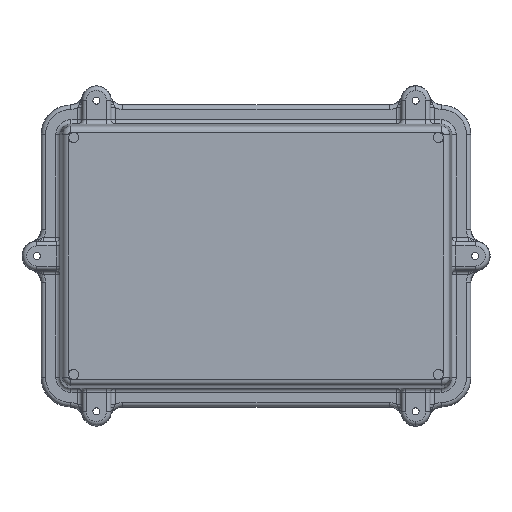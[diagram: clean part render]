
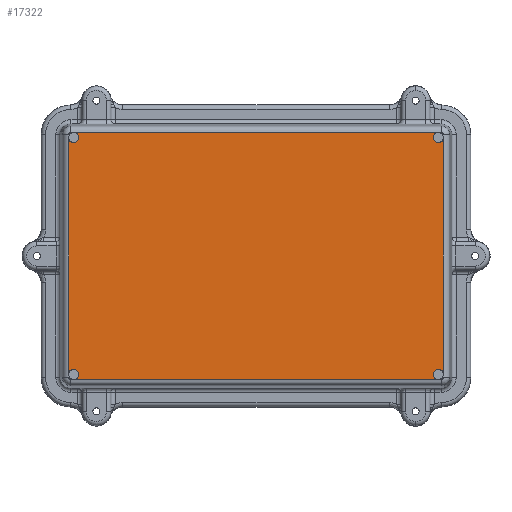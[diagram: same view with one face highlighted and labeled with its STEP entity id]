
A CAD part, front view. The second image highlights one B-rep face of the part: STEP entity #17322.
In plain terms, the highlighted planar face has unit normal (0, -1, 0).
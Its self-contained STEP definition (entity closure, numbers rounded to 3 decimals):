
#229 = DIRECTION ( 'NONE',  ( 0., 0., 1. ) ) ;
#290 = DIRECTION ( 'NONE',  ( 0., 0., 1. ) ) ;
#430 = ORIENTED_EDGE ( 'NONE', *, *, #16453, .T. ) ;
#850 = CARTESIAN_POINT ( 'NONE',  ( 85.017, -40.15, -58.001 ) ) ;
#886 = CARTESIAN_POINT ( 'NONE',  ( -87., -40.15, 57. ) ) ;
#1676 = CARTESIAN_POINT ( 'NONE',  ( -85.7, -40.15, 53.3 ) ) ;
#1740 = CARTESIAN_POINT ( 'NONE',  ( 85.017, -40.15, 58.001 ) ) ;
#1853 = FACE_OUTER_BOUND ( 'NONE', #1958, .T. ) ;
#1897 = AXIS2_PLACEMENT_3D ( 'NONE', #14745, #10352, #3872 ) ;
#1958 = EDGE_LOOP ( 'NONE', ( #27041, #11726, #8102, #25198, #8830, #15348, #15095, #3859, #2852, #21496, #430, #13577 ) ) ;
#2245 = AXIS2_PLACEMENT_3D ( 'NONE', #6286, #21515, #8482 ) ;
#2595 = EDGE_CURVE ( 'NONE', #19711, #3288, #27076, .T. ) ;
#2852 = ORIENTED_EDGE ( 'NONE', *, *, #9067, .F. ) ;
#3215 = LINE ( 'NONE', #16376, #28013 ) ;
#3288 = VERTEX_POINT ( 'NONE', #8596 ) ;
#3567 = VECTOR ( 'NONE', #13214, 1000. ) ;
#3859 = ORIENTED_EDGE ( 'NONE', *, *, #6562, .T. ) ;
#3872 = DIRECTION ( 'NONE',  ( 0., 0., 1. ) ) ;
#4187 = EDGE_CURVE ( 'NONE', #6358, #24547, #3215, .T. ) ;
#4481 = EDGE_CURVE ( 'NONE', #19711, #24818, #22580, .T. ) ;
#4719 = CIRCLE ( 'NONE', #2245, 2.4 ) ;
#4793 = CARTESIAN_POINT ( 'NONE',  ( 88.001, -40.15, 57. ) ) ;
#4819 = CIRCLE ( 'NONE', #19070, 2.4 ) ;
#4834 = CARTESIAN_POINT ( 'NONE',  ( -87., -40.15, 58.001 ) ) ;
#4860 = VERTEX_POINT ( 'NONE', #24066 ) ;
#4923 = DIRECTION ( 'NONE',  ( 0., 0., -1. ) ) ;
#5791 = CARTESIAN_POINT ( 'NONE',  ( -88.001, -40.15, -55.017 ) ) ;
#6286 = CARTESIAN_POINT ( 'NONE',  ( -85.7, -40.15, 55.7 ) ) ;
#6299 = VERTEX_POINT ( 'NONE', #22926 ) ;
#6358 = VERTEX_POINT ( 'NONE', #18312 ) ;
#6562 = EDGE_CURVE ( 'NONE', #20203, #11946, #8218, .T. ) ;
#6903 = DIRECTION ( 'NONE',  ( 0., -1., 0. ) ) ;
#8039 = AXIS2_PLACEMENT_3D ( 'NONE', #13320, #19773, #229 ) ;
#8102 = ORIENTED_EDGE ( 'NONE', *, *, #10351, .F. ) ;
#8218 = LINE ( 'NONE', #4834, #25217 ) ;
#8259 = CARTESIAN_POINT ( 'NONE',  ( 88.001, -40.15, -55.017 ) ) ;
#8380 = AXIS2_PLACEMENT_3D ( 'NONE', #27410, #25152, #14344 ) ;
#8482 = DIRECTION ( 'NONE',  ( 0., 0., -1. ) ) ;
#8596 = CARTESIAN_POINT ( 'NONE',  ( 85.7, -40.15, -53.3 ) ) ;
#8757 = DIRECTION ( 'NONE',  ( -1., 0., 0. ) ) ;
#8830 = ORIENTED_EDGE ( 'NONE', *, *, #4481, .T. ) ;
#9067 = EDGE_CURVE ( 'NONE', #27628, #11946, #4719, .T. ) ;
#9847 = AXIS2_PLACEMENT_3D ( 'NONE', #886, #26855, #16439 ) ;
#10351 = EDGE_CURVE ( 'NONE', #3288, #24547, #18009, .T. ) ;
#10352 = DIRECTION ( 'NONE',  ( 0., -1., 0. ) ) ;
#10553 = EDGE_CURVE ( 'NONE', #4860, #23946, #14917, .T. ) ;
#10793 = CARTESIAN_POINT ( 'NONE',  ( -85.7, -40.15, -55.7 ) ) ;
#11032 = VECTOR ( 'NONE', #11572, 1000. ) ;
#11572 = DIRECTION ( 'NONE',  ( 0., 0., 1. ) ) ;
#11726 = ORIENTED_EDGE ( 'NONE', *, *, #4187, .T. ) ;
#11946 = VERTEX_POINT ( 'NONE', #21809 ) ;
#13214 = DIRECTION ( 'NONE',  ( 0., 0., -1. ) ) ;
#13320 = CARTESIAN_POINT ( 'NONE',  ( -85.7, -40.15, -55.7 ) ) ;
#13425 = DIRECTION ( 'NONE',  ( 0., 0., -1. ) ) ;
#13492 = EDGE_CURVE ( 'NONE', #20203, #27031, #20750, .T. ) ;
#13577 = ORIENTED_EDGE ( 'NONE', *, *, #10553, .F. ) ;
#14261 = PLANE ( 'NONE',  #9847 ) ;
#14344 = DIRECTION ( 'NONE',  ( 0., 0., -1. ) ) ;
#14467 = DIRECTION ( 'NONE',  ( 1., 0., 0. ) ) ;
#14745 = CARTESIAN_POINT ( 'NONE',  ( 85.7, -40.15, 55.7 ) ) ;
#14917 = CIRCLE ( 'NONE', #26031, 2.4 ) ;
#15095 = ORIENTED_EDGE ( 'NONE', *, *, #13492, .F. ) ;
#15348 = ORIENTED_EDGE ( 'NONE', *, *, #18191, .F. ) ;
#15802 = DIRECTION ( 'NONE',  ( 0., -1., 0. ) ) ;
#16093 = CARTESIAN_POINT ( 'NONE',  ( 85.7, -40.15, 55.7 ) ) ;
#16376 = CARTESIAN_POINT ( 'NONE',  ( 87., -40.15, -58.001 ) ) ;
#16439 = DIRECTION ( 'NONE',  ( 0., 0., -1. ) ) ;
#16453 = EDGE_CURVE ( 'NONE', #6299, #23946, #21604, .T. ) ;
#16504 = CIRCLE ( 'NONE', #26937, 2.4 ) ;
#17322 = ADVANCED_FACE ( 'NONE', ( #1853 ), #14261, .T. ) ;
#17676 = CARTESIAN_POINT ( 'NONE',  ( -88.001, -40.15, -57. ) ) ;
#17809 = CARTESIAN_POINT ( 'NONE',  ( 88.001, -40.15, 55.017 ) ) ;
#18009 = CIRCLE ( 'NONE', #8380, 2.4 ) ;
#18191 = EDGE_CURVE ( 'NONE', #27031, #24818, #16504, .T. ) ;
#18274 = DIRECTION ( 'NONE',  ( 0., 0., 1. ) ) ;
#18312 = CARTESIAN_POINT ( 'NONE',  ( -85.017, -40.15, -58.001 ) ) ;
#19070 = AXIS2_PLACEMENT_3D ( 'NONE', #26670, #6903, #13425 ) ;
#19711 = VERTEX_POINT ( 'NONE', #8259 ) ;
#19773 = DIRECTION ( 'NONE',  ( 0., -1., 0. ) ) ;
#19978 = AXIS2_PLACEMENT_3D ( 'NONE', #26683, #15802, #4923 ) ;
#20203 = VERTEX_POINT ( 'NONE', #1740 ) ;
#20630 = CIRCLE ( 'NONE', #8039, 2.4 ) ;
#20750 = CIRCLE ( 'NONE', #1897, 2.4 ) ;
#21496 = ORIENTED_EDGE ( 'NONE', *, *, #21992, .F. ) ;
#21515 = DIRECTION ( 'NONE',  ( 0., -1., 0. ) ) ;
#21604 = LINE ( 'NONE', #17676, #3567 ) ;
#21809 = CARTESIAN_POINT ( 'NONE',  ( -85.017, -40.15, 58.001 ) ) ;
#21992 = EDGE_CURVE ( 'NONE', #6299, #27628, #4819, .T. ) ;
#22580 = LINE ( 'NONE', #4793, #11032 ) ;
#22792 = CARTESIAN_POINT ( 'NONE',  ( 85.7, -40.15, 53.3 ) ) ;
#22926 = CARTESIAN_POINT ( 'NONE',  ( -88.001, -40.15, 55.017 ) ) ;
#23946 = VERTEX_POINT ( 'NONE', #5791 ) ;
#24066 = CARTESIAN_POINT ( 'NONE',  ( -85.7, -40.15, -53.3 ) ) ;
#24524 = DIRECTION ( 'NONE',  ( 0., -1., 0. ) ) ;
#24547 = VERTEX_POINT ( 'NONE', #850 ) ;
#24818 = VERTEX_POINT ( 'NONE', #17809 ) ;
#25152 = DIRECTION ( 'NONE',  ( 0., -1., 0. ) ) ;
#25198 = ORIENTED_EDGE ( 'NONE', *, *, #2595, .F. ) ;
#25217 = VECTOR ( 'NONE', #8757, 1000. ) ;
#25980 = DIRECTION ( 'NONE',  ( 0., -1., 0. ) ) ;
#26031 = AXIS2_PLACEMENT_3D ( 'NONE', #10793, #25980, #290 ) ;
#26670 = CARTESIAN_POINT ( 'NONE',  ( -85.7, -40.15, 55.7 ) ) ;
#26683 = CARTESIAN_POINT ( 'NONE',  ( 85.7, -40.15, -55.7 ) ) ;
#26855 = DIRECTION ( 'NONE',  ( 0., -1., 0. ) ) ;
#26937 = AXIS2_PLACEMENT_3D ( 'NONE', #16093, #24524, #18274 ) ;
#27031 = VERTEX_POINT ( 'NONE', #22792 ) ;
#27041 = ORIENTED_EDGE ( 'NONE', *, *, #27762, .F. ) ;
#27076 = CIRCLE ( 'NONE', #19978, 2.4 ) ;
#27410 = CARTESIAN_POINT ( 'NONE',  ( 85.7, -40.15, -55.7 ) ) ;
#27628 = VERTEX_POINT ( 'NONE', #1676 ) ;
#27762 = EDGE_CURVE ( 'NONE', #6358, #4860, #20630, .T. ) ;
#28013 = VECTOR ( 'NONE', #14467, 1000. ) ;
